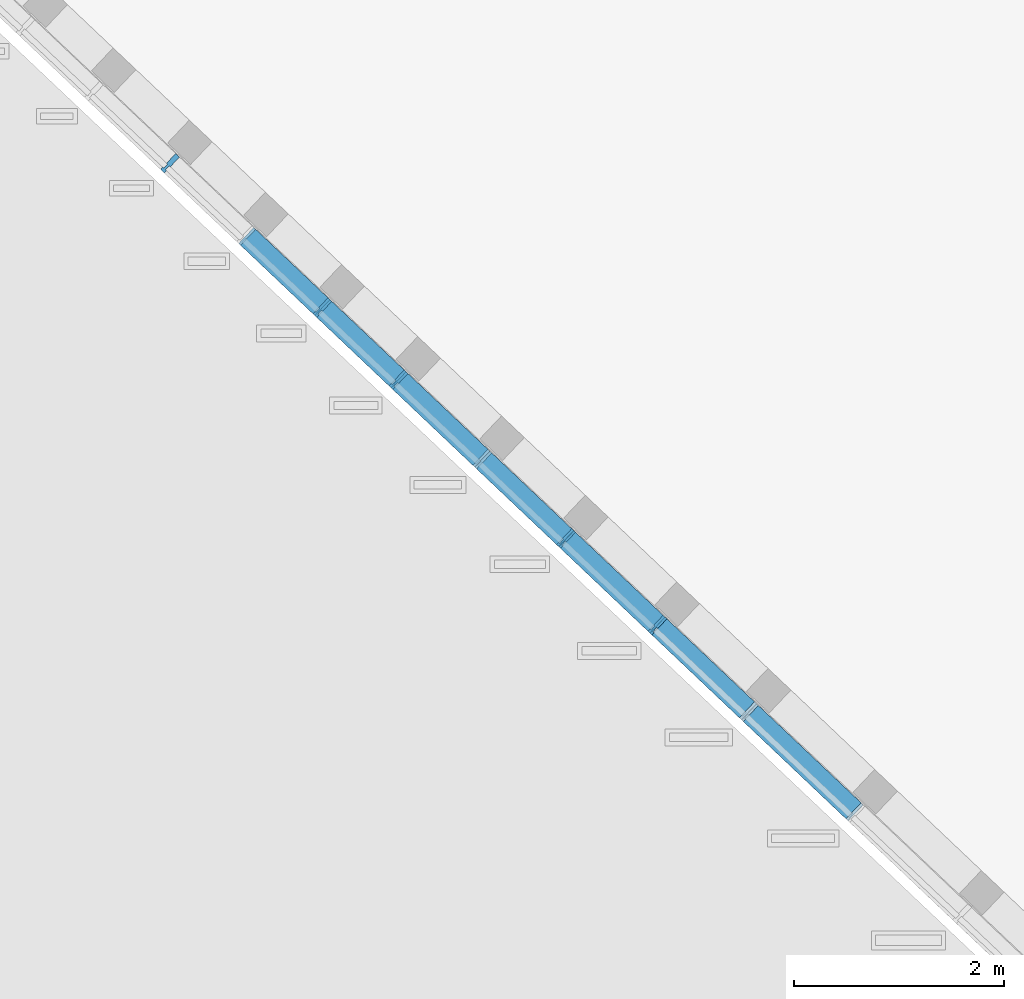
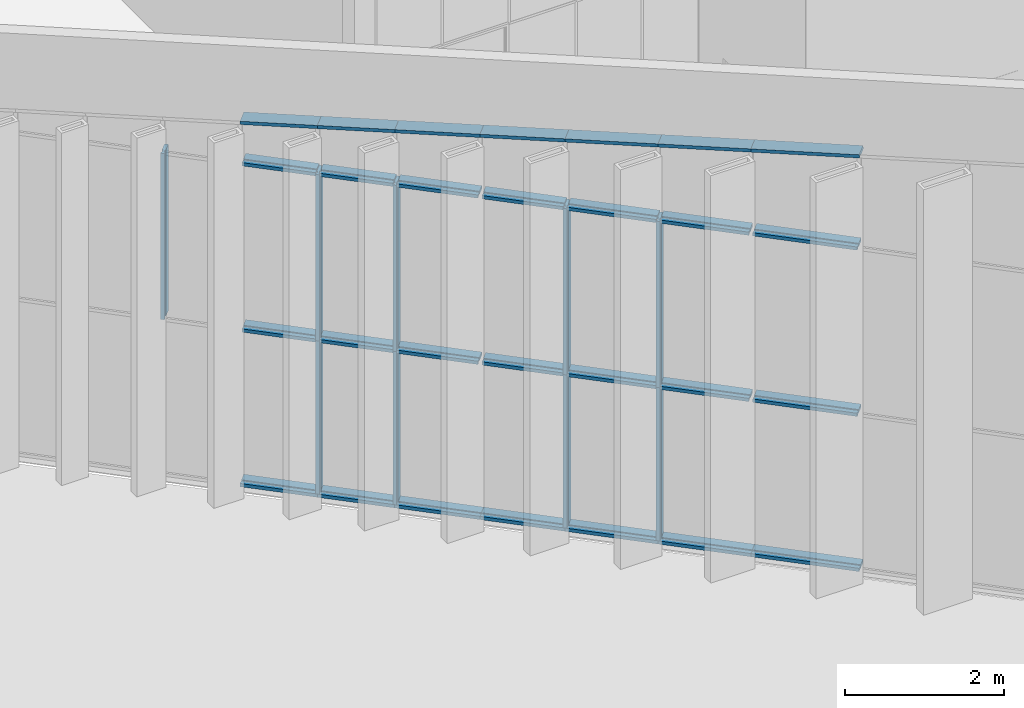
# One storey, part 11 of 246: 37 members, 1 element without a shape of its own.
"""IFC2X3 building model written with IfcOpenShell, lengths in millimetres."""

from ifc_helpers import new_model, entity, si_unit, converted_unit, derived_unit, money_unit, direction, frame, origin_with_axes, place, context, subcontext, project, spatial, faceted_brep, source, transform, mapped, material, type_object, element, aggregate, save


model = new_model("IFC2X3")

# Units and contexts
model_context = context("Model", 3, precision=0.01, world=origin_with_axes(), true_north=direction((0.0, 1.0)))
body_context = subcontext(model_context, "Body", "Model", "MODEL_VIEW")
ifc_project = project(units=[si_unit("LENGTHUNIT", "METRE", prefix="MILLI"), si_unit("AREAUNIT", "SQUARE_METRE"), si_unit("VOLUMEUNIT", "CUBIC_METRE"), converted_unit("PLANEANGLEUNIT", "DEGREE", entity("IfcPlaneAngleMeasure", 0.0174532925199), si_unit("PLANEANGLEUNIT", "RADIAN"), dimensions=[0, 0, 0, 0, 0, 0, 0]), si_unit("SOLIDANGLEUNIT", "STERADIAN"), money_unit("EUR"), converted_unit("TIMEUNIT", "Year", entity("IfcTimeMeasure", 31556926.0), si_unit("TIMEUNIT", "SECOND"), dimensions=[0, 0, 1, 0, 0, 0, 0]), si_unit("MASSUNIT", "GRAM", prefix="KILO"), si_unit("THERMODYNAMICTEMPERATUREUNIT", "DEGREE_CELSIUS"), si_unit("LUMINOUSINTENSITYUNIT", "LUMEN"), si_unit("ENERGYUNIT", "JOULE", prefix="MEGA"), derived_unit("THERMALCONDUCTANCEUNIT", [(si_unit("POWERUNIT", "WATT"), 1), (si_unit("LENGTHUNIT", "METRE"), -1), (si_unit("THERMODYNAMICTEMPERATUREUNIT", "KELVIN"), -1)]), derived_unit("SPECIFICHEATCAPACITYUNIT", [(si_unit("ENERGYUNIT", "JOULE"), 1), (si_unit("MASSUNIT", "GRAM", prefix="KILO"), -1), (si_unit("THERMODYNAMICTEMPERATUREUNIT", "KELVIN"), -1)]), derived_unit("MASSDENSITYUNIT", [(si_unit("MASSUNIT", "GRAM", prefix="KILO"), 1), (si_unit("VOLUMEUNIT", "CUBIC_METRE"), -1)])], contexts=[model_context])

# Site, building, storey
site_placement = place(None, origin_with_axes())
site = spatial("IfcSite", under=ifc_project, at=site_placement, Name="L.Koidula tn 11b", CompositionType="ELEMENT")
building_placement = place(site_placement, origin_with_axes())
building = spatial("IfcBuilding", under=site, at=building_placement, Name="Rakvere Riigigümnaasium", CompositionType="ELEMENT")
storey_placement = place(building_placement, origin_with_axes())
storey = spatial("IfcBuildingStorey", under=building, at=storey_placement, Name="1.korrus 0,00", CompositionType="ELEMENT", Elevation=0.0)

# Curtain wall, members
curtain_wall_type = type_object("IfcCurtainWallType", Name="Curtain Wall Type", PredefinedType="NOTDEFINED")
curtain_wall_placement = place(storey_placement, frame((33997.0353268, 45217.6604975, 0.0), z_axis=(0.0, 0.0, 1.0), x_axis=(1.0, 0.0, 0.0)))
curtain_wall = element("IfcCurtainWall", 1, at=curtain_wall_placement, inside=storey, type_object=curtain_wall_type, Name="KLF-02")
ifc_material = material(Name="Alumiiniumprofiil (RAL 7021)")
member_type_1 = type_object("IfcMemberType", Name="Mullion Frame 50 x 210", PredefinedType="MULLION")
shared_shape_1 = source(origin_with_axes(), body_context, "Body", "Brep", [
    faceted_brep([(12.0, -26.0, 2550.0), (12.0, 26.0, 2550.0), (25.0, 26.0, 2550.0), (25.0, 56.0, 2550.0), (-25.0, 56.0, 2550.0), (-25.0, 26.0, 2550.0), (-12.0, 26.0, 2550.0), (-12.0, -26.0, 2550.0), (-25.0, -26.0, 2550.0), (-25.0, -154.0, 2550.0), (25.0, -154.0, 2550.0), (25.0, -26.0, 2550.0), (12.0, -26.0, 0.0), (12.0, 26.0, 0.0), (25.0, 26.0, 0.0), (25.0, 56.0, 0.0), (-25.0, 56.0, 0.0), (-25.0, 26.0, 0.0), (-12.0, 26.0, 0.0), (-12.0, -26.0, 0.0), (-25.0, -26.0, 0.0), (-25.0, -154.0, 0.0), (25.0, -154.0, 0.0), (25.0, -26.0, 0.0)], [[[0, 1, 2, 3, 4, 5, 6, 7, 8, 9, 10, 11]], [[0, 12, 13, 1]], [[1, 13, 14, 2]], [[14, 15, 3, 2]], [[3, 15, 16, 4]], [[17, 5, 4, 16]], [[5, 17, 18, 6]], [[7, 6, 18, 19]], [[8, 7, 19, 20]], [[8, 20, 21, 9]], [[9, 21, 22, 10]], [[11, 10, 22, 23]], [[11, 23, 12, 0]], [[13, 12, 23, 22, 21, 20, 19, 18, 17, 16, 15, 14]]]),
])
member_1_placement = place(curtain_wall_placement, frame((-13430.2642398, 12723.1286423, 2400.00031279), z_axis=(0.0, 0.0, 1.0), x_axis=(0.725960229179, -0.687736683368, 0.0)))
member_1 = element("IfcMember", 2, at=member_1_placement, type_object=member_type_1, material=ifc_material, Name="KLF-46-Profiilid", ObjectType="MULLION", context=body_context, shape_type="MappedRepresentation", body=[
    mapped(shared_shape_1, transform((0.0, 0.0, 0.0), x_axis=(-1.0, 0.0, 0.0), y_axis=(0.0, -1.0, 0.0), z_axis=(0.0, 0.0, 1.0))),
])
member_2_placement = place(curtain_wall_placement, frame((-8784.11877306, 8321.61386876, 2400.00031279), z_axis=(0.0, 0.0, 1.0), x_axis=(0.725960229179, -0.687736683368, 0.0)))
member_2 = element("IfcMember", 3, at=member_2_placement, type_object=member_type_1, material=ifc_material, Name="KLF-28-Profiilid", ObjectType="MULLION", context=body_context, shape_type="MappedRepresentation", body=[
    mapped(shared_shape_1, transform((0.0, 0.0, 0.0), x_axis=(-1.0, 0.0, 0.0), y_axis=(0.0, -1.0, 0.0), z_axis=(0.0, 0.0, 1.0))),
])
member_3_placement = place(curtain_wall_placement, frame((-9655.27104808, 9146.8978888, 2400.00031279), z_axis=(0.0, 0.0, 1.0), x_axis=(0.725960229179, -0.687736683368, 0.0)))
member_3 = element("IfcMember", 4, at=member_3_placement, type_object=member_type_1, material=ifc_material, Name="KLF-31-Profiilid", ObjectType="MULLION", context=body_context, shape_type="MappedRepresentation", body=[
    mapped(shared_shape_1, transform((0.0, 0.0, 0.0), x_axis=(-1.0, 0.0, 0.0), y_axis=(0.0, -1.0, 0.0), z_axis=(0.0, 0.0, 1.0))),
])
member_4_placement = place(curtain_wall_placement, frame((-11252.3835523, 10659.9185922, 2400.00031279), z_axis=(0.0, 0.0, 1.0), x_axis=(0.725960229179, -0.687736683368, 0.0)))
member_4 = element("IfcMember", 5, at=member_4_placement, type_object=member_type_1, material=ifc_material, Name="KLF-37-Profiilid", ObjectType="MULLION", context=body_context, shape_type="MappedRepresentation", body=[
    mapped(shared_shape_1, transform((0.0, 0.0, 0.0), x_axis=(-1.0, 0.0, 0.0), y_axis=(0.0, -1.0, 0.0), z_axis=(0.0, 0.0, 1.0))),
])
member_5_placement = place(curtain_wall_placement, frame((-11978.3437815, 11347.6552756, 2400.00031279), z_axis=(0.0, 0.0, 1.0), x_axis=(0.725960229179, -0.687736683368, 0.0)))
member_5 = element("IfcMember", 6, at=member_5_placement, type_object=member_type_1, material=ifc_material, Name="KLF-40-Profiilid", ObjectType="MULLION", context=body_context, shape_type="MappedRepresentation", body=[
    mapped(shared_shape_1, transform((0.0, 0.0, 0.0), x_axis=(-1.0, 0.0, 0.0), y_axis=(0.0, -1.0, 0.0), z_axis=(0.0, 0.0, 1.0))),
])
shared_shape_2 = source(origin_with_axes(), body_context, "Body", "Brep", [
    faceted_brep([(12.0, -26.0, 2400.00031279), (12.0, 26.0, 2400.00031279), (25.0, 26.0, 2400.00031279), (25.0, 56.0, 2400.00031279), (-25.0, 56.0, 2400.00031279), (-25.0, 26.0, 2400.00031279), (-12.0, 26.0, 2400.00031279), (-12.0, -26.0, 2400.00031279), (-25.0, -26.0, 2400.00031279), (-25.0, -154.0, 2400.00031279), (25.0, -154.0, 2400.00031279), (25.0, -26.0, 2400.00031279), (12.0, -26.0, 50.0), (12.0, 26.0, 50.0), (25.0, 26.0, 50.0), (25.0, 56.0, 50.0), (-25.0, 56.0, 50.0), (-25.0, 26.0, 50.0), (-12.0, 26.0, 50.0), (-12.0, -26.0, 50.0), (-25.0, -26.0, 50.0), (-25.0, -154.0, 50.0), (25.0, -154.0, 50.0), (25.0, -26.0, 50.0)], [[[0, 1, 2, 3, 4, 5, 6, 7, 8, 9, 10, 11]], [[0, 12, 13, 1]], [[1, 13, 14, 2]], [[14, 15, 3, 2]], [[4, 3, 15, 16]], [[17, 5, 4, 16]], [[5, 17, 18, 6]], [[7, 6, 18, 19]], [[8, 7, 19, 20]], [[8, 20, 21, 9]], [[10, 9, 21, 22]], [[11, 10, 22, 23]], [[11, 23, 12, 0]], [[13, 12, 23, 22, 21, 20, 19, 18, 17, 16, 15, 14]]]),
])
member_6_placement = place(curtain_wall_placement, frame((-8784.11877306, 8321.61386876, 0.0), z_axis=(0.0, 0.0, 1.0), x_axis=(0.725960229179, -0.687736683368, 0.0)))
member_6 = element("IfcMember", 7, at=member_6_placement, type_object=member_type_1, material=ifc_material, Name="KLF-27-Profiilid", ObjectType="MULLION", context=body_context, shape_type="MappedRepresentation", body=[
    mapped(shared_shape_2, transform((0.0, 0.0, 0.0), x_axis=(-1.0, 0.0, 0.0), y_axis=(0.0, -1.0, 0.0), z_axis=(0.0, 0.0, 1.0))),
])
member_7_placement = place(curtain_wall_placement, frame((-9655.27104808, 9146.8978888, 0.0), z_axis=(0.0, 0.0, 1.0), x_axis=(0.725960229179, -0.687736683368, 0.0)))
member_7 = element("IfcMember", 8, at=member_7_placement, type_object=member_type_1, material=ifc_material, Name="KLF-30-Profiilid", ObjectType="MULLION", context=body_context, shape_type="MappedRepresentation", body=[
    mapped(shared_shape_2, transform((0.0, 0.0, 0.0), x_axis=(-1.0, 0.0, 0.0), y_axis=(0.0, -1.0, 0.0), z_axis=(0.0, 0.0, 1.0))),
])
member_8_placement = place(curtain_wall_placement, frame((-11252.3835523, 10659.9185922, 0.0), z_axis=(0.0, 0.0, 1.0), x_axis=(0.725960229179, -0.687736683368, 0.0)))
member_8 = element("IfcMember", 9, at=member_8_placement, type_object=member_type_1, material=ifc_material, Name="KLF-36-Profiilid", ObjectType="MULLION", context=body_context, shape_type="MappedRepresentation", body=[
    mapped(shared_shape_2, transform((0.0, 0.0, 0.0), x_axis=(-1.0, 0.0, 0.0), y_axis=(0.0, -1.0, 0.0), z_axis=(0.0, 0.0, 1.0))),
])
member_9_placement = place(curtain_wall_placement, frame((-11978.3437815, 11347.6552756, 0.0), z_axis=(0.0, 0.0, 1.0), x_axis=(0.725960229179, -0.687736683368, 0.0)))
member_9 = element("IfcMember", 10, at=member_9_placement, type_object=member_type_1, material=ifc_material, Name="KLF-39-Profiilid", ObjectType="MULLION", context=body_context, shape_type="MappedRepresentation", body=[
    mapped(shared_shape_2, transform((0.0, 0.0, 0.0), x_axis=(-1.0, 0.0, 0.0), y_axis=(0.0, -1.0, 0.0), z_axis=(0.0, 0.0, 1.0))),
])
member_type_2 = type_object("IfcMemberType", Name="Transom Frame 50 x 210", PredefinedType="MULLION")
shared_shape_3 = source(origin_with_axes(), body_context, "Body", "Brep", [
    faceted_brep([(12.0, -26.0, 975.0), (12.0, 26.0, 975.0), (25.0, 26.0, 975.0), (25.0, 56.0, 975.0), (-25.0, 56.0, 975.0), (-25.0, 26.0, 975.0), (-12.0, 26.0, 975.0), (-12.0, -26.0, 975.0), (-25.0, -26.0, 975.0), (-25.0, -154.0, 975.0), (25.0, -154.0, 975.0), (25.0, -26.0, 975.0), (12.0, -26.0, 25.0), (12.0, 26.0, 25.0), (25.0, 26.0, 25.0), (25.0, 56.0, 25.0), (-25.0, 56.0, 25.0), (-25.0, 26.0, 25.0), (-12.0, 26.0, 25.0), (-12.0, -26.0, 25.0), (-25.0, -26.0, 25.0), (-25.0, -154.0, 25.0), (25.0, -154.0, 25.0), (25.0, -26.0, 25.0)], [[[0, 1, 2, 3, 4, 5, 6, 7, 8, 9, 10, 11]], [[0, 12, 13, 1]], [[1, 13, 14, 2]], [[14, 15, 3, 2]], [[4, 3, 15, 16]], [[17, 5, 4, 16]], [[5, 17, 18, 6]], [[7, 6, 18, 19]], [[8, 7, 19, 20]], [[8, 20, 21, 9]], [[10, 9, 21, 22]], [[11, 10, 22, 23]], [[11, 23, 12, 0]], [[13, 12, 23, 22, 21, 20, 19, 18, 17, 16, 15, 14]]]),
])
member_10_placement = place(curtain_wall_placement, frame((-11978.3437815, 11347.6552756, 4950.00031279), z_axis=(-0.725960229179, 0.687736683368, 0.0), x_axis=(0.0, 0.0, 1.0)))
member_10 = element("IfcMember", 11, at=member_10_placement, type_object=member_type_2, material=ifc_material, Name="KLF-51-Profiilid", ObjectType="MULLION", context=body_context, shape_type="MappedRepresentation", body=[
    mapped(shared_shape_3, transform((0.0, 0.0, 0.0), x_axis=(-1.0, 0.0, 0.0), y_axis=(0.0, -1.0, 0.0), z_axis=(0.0, 0.0, 1.0))),
])
member_11_placement = place(curtain_wall_placement, frame((-11252.3835523, 10659.9185922, 4950.00031279), z_axis=(-0.725960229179, 0.687736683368, 0.0), x_axis=(0.0, 0.0, 1.0)))
member_11 = element("IfcMember", 12, at=member_11_placement, type_object=member_type_2, material=ifc_material, Name="KLF-50-Profiilid", ObjectType="MULLION", context=body_context, shape_type="MappedRepresentation", body=[
    mapped(shared_shape_3, transform((0.0, 0.0, 0.0), x_axis=(-1.0, 0.0, 0.0), y_axis=(0.0, -1.0, 0.0), z_axis=(0.0, 0.0, 1.0))),
])
member_12_placement = place(curtain_wall_placement, frame((-11978.3437815, 11347.6552756, 2400.00031279), z_axis=(-0.725960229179, 0.687736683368, 0.0), x_axis=(0.0, 0.0, 1.0)))
member_12 = element("IfcMember", 13, at=member_12_placement, type_object=member_type_2, material=ifc_material, Name="KLF-33-Profiilid", ObjectType="MULLION", context=body_context, shape_type="MappedRepresentation", body=[
    mapped(shared_shape_3, transform((0.0, 0.0, 0.0), x_axis=(-1.0, 0.0, 0.0), y_axis=(0.0, -1.0, 0.0), z_axis=(0.0, 0.0, 1.0))),
])
member_13_placement = place(curtain_wall_placement, frame((-11252.3835523, 10659.9185922, 2400.00031279), z_axis=(-0.725960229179, 0.687736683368, 0.0), x_axis=(0.0, 0.0, 1.0)))
member_13 = element("IfcMember", 14, at=member_13_placement, type_object=member_type_2, material=ifc_material, Name="KLF-32-Profiilid", ObjectType="MULLION", context=body_context, shape_type="MappedRepresentation", body=[
    mapped(shared_shape_3, transform((0.0, 0.0, 0.0), x_axis=(-1.0, 0.0, 0.0), y_axis=(0.0, -1.0, 0.0), z_axis=(0.0, 0.0, 1.0))),
])
shared_shape_4 = source(origin_with_axes(), body_context, "Body", "Brep", [
    faceted_brep([(12.0, -26.0, 1075.0), (12.0, 26.0, 1075.0), (25.0, 26.0, 1075.0), (25.0, 56.0, 1075.0), (-25.0, 56.0, 1075.0), (-25.0, 26.0, 1075.0), (-12.0, 26.0, 1075.0), (-12.0, -26.0, 1075.0), (-25.0, -26.0, 1075.0), (-25.0, -154.0, 1075.0), (25.0, -154.0, 1075.0), (25.0, -26.0, 1075.0), (12.0, -26.0, 25.0), (12.0, 26.0, 25.0), (25.0, 26.0, 25.0), (25.0, 56.0, 25.0), (-25.0, 56.0, 25.0), (-25.0, 26.0, 25.0), (-12.0, 26.0, 25.0), (-12.0, -26.0, 25.0), (-25.0, -26.0, 25.0), (-25.0, -154.0, 25.0), (25.0, -154.0, 25.0), (25.0, -26.0, 25.0)], [[[0, 1, 2, 3, 4, 5, 6, 7, 8, 9, 10, 11]], [[0, 12, 13, 1]], [[1, 13, 14, 2]], [[14, 15, 3, 2]], [[4, 3, 15, 16]], [[17, 5, 4, 16]], [[5, 17, 18, 6]], [[7, 6, 18, 19]], [[8, 7, 19, 20]], [[8, 20, 21, 9]], [[10, 9, 21, 22]], [[11, 10, 22, 23]], [[11, 23, 12, 0]], [[13, 12, 23, 22, 21, 20, 19, 18, 17, 16, 15, 14]]]),
])
member_14_placement = place(curtain_wall_placement, frame((-10453.8273002, 9903.40824051, 4950.00031279), z_axis=(-0.725960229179, 0.687736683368, 0.0), x_axis=(0.0, 0.0, 1.0)))
member_14 = element("IfcMember", 15, at=member_14_placement, type_object=member_type_2, material=ifc_material, Name="KLF-49-Profiilid", ObjectType="MULLION", context=body_context, shape_type="MappedRepresentation", body=[
    mapped(shared_shape_4, transform((0.0, 0.0, 0.0), x_axis=(-1.0, 0.0, 0.0), y_axis=(0.0, -1.0, 0.0), z_axis=(0.0, 0.0, 1.0))),
])
member_15_placement = place(curtain_wall_placement, frame((-9655.27104808, 9146.8978888, 4950.00031279), z_axis=(-0.725960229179, 0.687736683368, 0.0), x_axis=(0.0, 0.0, 1.0)))
member_15 = element("IfcMember", 16, at=member_15_placement, type_object=member_type_2, material=ifc_material, Name="KLF-48-Profiilid", ObjectType="MULLION", context=body_context, shape_type="MappedRepresentation", body=[
    mapped(shared_shape_4, transform((0.0, 0.0, 0.0), x_axis=(-1.0, 0.0, 0.0), y_axis=(0.0, -1.0, 0.0), z_axis=(0.0, 0.0, 1.0))),
])
member_16_placement = place(curtain_wall_placement, frame((-10453.8273002, 9903.40824051, 2400.00031279), z_axis=(-0.725960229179, 0.687736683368, 0.0), x_axis=(0.0, 0.0, 1.0)))
member_16 = element("IfcMember", 17, at=member_16_placement, type_object=member_type_2, material=ifc_material, Name="KLF-31-Profiilid", ObjectType="MULLION", context=body_context, shape_type="MappedRepresentation", body=[
    mapped(shared_shape_4, transform((0.0, 0.0, 0.0), x_axis=(-1.0, 0.0, 0.0), y_axis=(0.0, -1.0, 0.0), z_axis=(0.0, 0.0, 1.0))),
])
member_17_placement = place(curtain_wall_placement, frame((-9655.27104808, 9146.8978888, 2400.00031279), z_axis=(-0.725960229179, 0.687736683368, 0.0), x_axis=(0.0, 0.0, 1.0)))
member_17 = element("IfcMember", 18, at=member_17_placement, type_object=member_type_2, material=ifc_material, Name="KLF-30-Profiilid", ObjectType="MULLION", context=body_context, shape_type="MappedRepresentation", body=[
    mapped(shared_shape_4, transform((0.0, 0.0, 0.0), x_axis=(-1.0, 0.0, 0.0), y_axis=(0.0, -1.0, 0.0), z_axis=(0.0, 0.0, 1.0))),
])
shared_shape_5 = source(origin_with_axes(), body_context, "Body", "Brep", [
    faceted_brep([(12.0, -26.0, 1175.0), (12.0, 26.0, 1175.0), (25.0, 26.0, 1175.0), (25.0, 56.0, 1175.0), (-25.0, 56.0, 1175.0), (-25.0, 26.0, 1175.0), (-12.0, 26.0, 1175.0), (-12.0, -26.0, 1175.0), (-25.0, -26.0, 1175.0), (-25.0, -154.0, 1175.0), (25.0, -154.0, 1175.0), (25.0, -26.0, 1175.0), (12.0, -26.0, 25.0), (12.0, 26.0, 25.0), (25.0, 26.0, 25.0), (25.0, 56.0, 25.0), (-25.0, 56.0, 25.0), (-25.0, 26.0, 25.0), (-12.0, 26.0, 25.0), (-12.0, -26.0, 25.0), (-25.0, -26.0, 25.0), (-25.0, -154.0, 25.0), (25.0, -154.0, 25.0), (25.0, -26.0, 25.0)], [[[0, 1, 2, 3, 4, 5, 6, 7, 8, 9, 10, 11]], [[0, 12, 13, 1]], [[1, 13, 14, 2]], [[14, 15, 3, 2]], [[4, 3, 15, 16]], [[17, 5, 4, 16]], [[5, 17, 18, 6]], [[7, 6, 18, 19]], [[8, 7, 19, 20]], [[8, 20, 21, 9]], [[10, 9, 21, 22]], [[11, 10, 22, 23]], [[11, 23, 12, 0]], [[13, 12, 23, 22, 21, 20, 19, 18, 17, 16, 15, 14]]]),
])
member_18_placement = place(curtain_wall_placement, frame((-8784.11877306, 8321.61386876, 4950.00031279), z_axis=(-0.725960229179, 0.687736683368, 0.0), x_axis=(0.0, 0.0, 1.0)))
member_18 = element("IfcMember", 19, at=member_18_placement, type_object=member_type_2, material=ifc_material, Name="KLF-47-Profiilid", ObjectType="MULLION", context=body_context, shape_type="MappedRepresentation", body=[
    mapped(shared_shape_5, transform((0.0, 0.0, 0.0), x_axis=(-1.0, 0.0, 0.0), y_axis=(0.0, -1.0, 0.0), z_axis=(0.0, 0.0, 1.0))),
])
member_19_placement = place(curtain_wall_placement, frame((-7912.96649805, 7496.32984872, 4950.00031279), z_axis=(-0.725960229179, 0.687736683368, 0.0), x_axis=(0.0, 0.0, 1.0)))
member_19 = element("IfcMember", 20, at=member_19_placement, type_object=member_type_2, material=ifc_material, Name="KLF-46-Profiilid", ObjectType="MULLION", context=body_context, shape_type="MappedRepresentation", body=[
    mapped(shared_shape_5, transform((0.0, 0.0, 0.0), x_axis=(-1.0, 0.0, 0.0), y_axis=(0.0, -1.0, 0.0), z_axis=(0.0, 0.0, 1.0))),
])
member_20_placement = place(curtain_wall_placement, frame((-8784.11877306, 8321.61386876, 2400.00031279), z_axis=(-0.725960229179, 0.687736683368, 0.0), x_axis=(0.0, 0.0, 1.0)))
member_20 = element("IfcMember", 21, at=member_20_placement, type_object=member_type_2, material=ifc_material, Name="KLF-29-Profiilid", ObjectType="MULLION", context=body_context, shape_type="MappedRepresentation", body=[
    mapped(shared_shape_5, transform((0.0, 0.0, 0.0), x_axis=(-1.0, 0.0, 0.0), y_axis=(0.0, -1.0, 0.0), z_axis=(0.0, 0.0, 1.0))),
])
member_21_placement = place(curtain_wall_placement, frame((-7912.96649805, 7496.32984872, 2400.00031279), z_axis=(-0.725960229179, 0.687736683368, 0.0), x_axis=(0.0, 0.0, 1.0)))
member_21 = element("IfcMember", 22, at=member_21_placement, type_object=member_type_2, material=ifc_material, Name="KLF-28-Profiilid", ObjectType="MULLION", context=body_context, shape_type="MappedRepresentation", body=[
    mapped(shared_shape_5, transform((0.0, 0.0, 0.0), x_axis=(-1.0, 0.0, 0.0), y_axis=(0.0, -1.0, 0.0), z_axis=(0.0, 0.0, 1.0))),
])
shared_shape_6 = source(origin_with_axes(), body_context, "Body", "Brep", [
    faceted_brep([(12.0, -26.0, 1375.0), (12.0, 26.0, 1375.0), (25.0, 26.0, 1375.0), (25.0, 56.0, 1375.0), (-25.0, 56.0, 1375.0), (-25.0, 26.0, 1375.0), (-12.0, 26.0, 1375.0), (-12.0, -26.0, 1375.0), (-25.0, -26.0, 1375.0), (-25.0, -154.0, 1375.0), (25.0, -154.0, 1375.0), (25.0, -26.0, 1375.0), (12.0, -26.0, 25.0), (12.0, 26.0, 25.0), (25.0, 26.0, 25.0), (25.0, 56.0, 25.0), (-25.0, 56.0, 25.0), (-25.0, 26.0, 25.0), (-12.0, 26.0, 25.0), (-12.0, -26.0, 25.0), (-25.0, -26.0, 25.0), (-25.0, -154.0, 25.0), (25.0, -154.0, 25.0), (25.0, -26.0, 25.0)], [[[0, 1, 2, 3, 4, 5, 6, 7, 8, 9, 10, 11]], [[0, 12, 13, 1]], [[1, 13, 14, 2]], [[14, 15, 3, 2]], [[4, 3, 15, 16]], [[17, 5, 4, 16]], [[5, 17, 18, 6]], [[7, 6, 18, 19]], [[8, 7, 19, 20]], [[8, 20, 21, 9]], [[10, 9, 21, 22]], [[11, 10, 22, 23]], [[11, 23, 12, 0]], [[13, 12, 23, 22, 21, 20, 19, 18, 17, 16, 15, 14]]]),
])
member_22_placement = place(curtain_wall_placement, frame((-6896.6221772, 6533.498492, 4950.00031279), z_axis=(-0.725960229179, 0.687736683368, 0.0), x_axis=(0.0, 0.0, 1.0)))
member_22 = element("IfcMember", 23, at=member_22_placement, type_object=member_type_2, material=ifc_material, Name="KLF-45-Profiilid", ObjectType="MULLION", context=body_context, shape_type="MappedRepresentation", body=[
    mapped(shared_shape_6, transform((0.0, 0.0, 0.0), x_axis=(-1.0, 0.0, 0.0), y_axis=(0.0, -1.0, 0.0), z_axis=(0.0, 0.0, 1.0))),
])
member_23_placement = place(curtain_wall_placement, frame((-6896.6221772, 6533.498492, 2400.00031279), z_axis=(-0.725960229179, 0.687736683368, 0.0), x_axis=(0.0, 0.0, 1.0)))
member_23 = element("IfcMember", 24, at=member_23_placement, type_object=member_type_2, material=ifc_material, Name="KLF-27-Profiilid", ObjectType="MULLION", context=body_context, shape_type="MappedRepresentation", body=[
    mapped(shared_shape_6, transform((0.0, 0.0, 0.0), x_axis=(-1.0, 0.0, 0.0), y_axis=(0.0, -1.0, 0.0), z_axis=(0.0, 0.0, 1.0))),
])
member_type_3 = type_object("IfcMemberType", Name="Boundary Frame 50 x 210", PredefinedType="MULLION")
shared_shape_7 = source(origin_with_axes(), body_context, "Body", "Brep", [
    faceted_brep([(-37.0, -26.0, 1000.0), (-50.0, -26.0, 1000.0), (-50.0, -154.0, 1000.0), (0.0, -154.0, 1000.0), (0.0, 56.0, 1000.0), (-50.0, 56.0, 1000.0), (-50.0, 26.0, 1000.0), (-37.0, 26.0, 1000.0), (-37.0, -26.0, 0.0), (-50.0, -26.0, 0.0), (-50.0, -154.0, 0.0), (0.0, -154.0, 0.0), (0.0, 56.0, 0.0), (-50.0, 56.0, 0.0), (-50.0, 26.0, 0.0), (-37.0, 26.0, 0.0)], [[[0, 1, 2, 3, 4, 5, 6, 7]], [[0, 8, 9, 1]], [[9, 10, 2, 1]], [[10, 11, 3, 2]], [[11, 12, 4, 3]], [[12, 13, 5, 4]], [[6, 5, 13, 14]], [[14, 15, 7, 6]], [[7, 15, 8, 0]], [[8, 15, 14, 13, 12, 11, 10, 9]]]),
])
member_24_placement = place(curtain_wall_placement, frame((-11978.3437815, 11347.6552756, 0.0), z_axis=(-0.725960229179, 0.687736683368, 0.0), x_axis=(0.0, 0.0, 1.0)))
member_24 = element("IfcMember", 25, at=member_24_placement, type_object=member_type_3, material=ifc_material, Name="KLF-02-Profiilid", ObjectType="MULLION", context=body_context, shape_type="MappedRepresentation", body=[
    mapped(shared_shape_7, transform((0.0, 0.0, 0.0), x_axis=(-1.0, 0.0, 0.0), y_axis=(0.0, -1.0, 0.0), z_axis=(0.0, 0.0, 1.0))),
])
member_25_placement = place(curtain_wall_placement, frame((-11252.3835523, 10659.9185922, 0.0), z_axis=(-0.725960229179, 0.687736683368, 0.0), x_axis=(0.0, 0.0, 1.0)))
member_25 = element("IfcMember", 26, at=member_25_placement, type_object=member_type_3, material=ifc_material, Name="KLF-01-Profiilid", ObjectType="MULLION", context=body_context, shape_type="MappedRepresentation", body=[
    mapped(shared_shape_7, transform((0.0, 0.0, 0.0), x_axis=(-1.0, 0.0, 0.0), y_axis=(0.0, -1.0, 0.0), z_axis=(0.0, 0.0, 1.0))),
])
shared_shape_8 = source(origin_with_axes(), body_context, "Body", "Brep", [
    faceted_brep([(-37.0, -26.0, 1004.84901886), (-50.0, -26.0, 1004.84901886), (-50.0, -154.0, 1004.84901886), (0.0, -154.0, 1004.84901886), (0.0, 56.0, 1004.84901886), (-50.0, 56.0, 1004.84901886), (-50.0, 26.0, 1004.84901886), (-37.0, 26.0, 1004.84901886), (-37.0, -26.0, 0.0), (-50.0, -26.0, 0.0), (-50.0, -154.0, 0.0), (0.0, -154.0, 0.0), (0.0, 56.0, 0.0), (-50.0, 56.0, 0.0), (-50.0, 26.0, 0.0), (-37.0, 26.0, 0.0)], [[[0, 1, 2, 3, 4, 5, 6, 7]], [[0, 8, 9, 1]], [[9, 10, 2, 1]], [[10, 11, 3, 2]], [[11, 12, 4, 3]], [[12, 13, 5, 4]], [[6, 5, 13, 14]], [[14, 15, 7, 6]], [[7, 15, 8, 0]], [[8, 15, 14, 13, 12, 11, 10, 9]]]),
])
member_26_placement = place(curtain_wall_placement, frame((-11978.3437815, 11347.6552756, 5703.90003139), z_axis=(0.722457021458, -0.68441792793, 0.0981221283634), x_axis=(0.0712327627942, -0.0674821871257, -0.995174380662)))
member_26 = element("IfcMember", 27, at=member_26_placement, type_object=member_type_3, material=ifc_material, Name="KLF-15-Profiilid", ObjectType="MULLION", context=body_context, shape_type="MappedRepresentation", body=[
    mapped(shared_shape_8, transform((0.0, 0.0, 0.0), x_axis=(-1.0, 0.0, 0.0), y_axis=(0.0, -1.0, 0.0), z_axis=(0.0, 0.0, 1.0))),
])
member_27_placement = place(curtain_wall_placement, frame((-12704.3040106, 12035.3919589, 5605.30210698), z_axis=(0.722457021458, -0.68441792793, 0.0981221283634), x_axis=(0.0712327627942, -0.0674821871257, -0.995174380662)))
member_27 = element("IfcMember", 28, at=member_27_placement, type_object=member_type_3, material=ifc_material, Name="KLF-14-Profiilid", ObjectType="MULLION", context=body_context, shape_type="MappedRepresentation", body=[
    mapped(shared_shape_8, transform((0.0, 0.0, 0.0), x_axis=(-1.0, 0.0, 0.0), y_axis=(0.0, -1.0, 0.0), z_axis=(0.0, 0.0, 1.0))),
])
shared_shape_9 = source(origin_with_axes(), body_context, "Body", "Brep", [
    faceted_brep([(-37.0, -26.0, 1100.0), (-50.0, -26.0, 1100.0), (-50.0, -154.0, 1100.0), (0.0, -154.0, 1100.0), (0.0, 56.0, 1100.0), (-50.0, 56.0, 1100.0), (-50.0, 26.0, 1100.0), (-37.0, 26.0, 1100.0), (-37.0, -26.0, 0.0), (-50.0, -26.0, 0.0), (-50.0, -154.0, 0.0), (0.0, -154.0, 0.0), (0.0, 56.0, 0.0), (-50.0, 56.0, 0.0), (-50.0, 26.0, 0.0), (-37.0, 26.0, 0.0)], [[[0, 1, 2, 3, 4, 5, 6, 7]], [[0, 8, 9, 1]], [[9, 10, 2, 1]], [[10, 11, 3, 2]], [[11, 12, 4, 3]], [[12, 13, 5, 4]], [[6, 5, 13, 14]], [[14, 15, 7, 6]], [[7, 15, 8, 0]], [[8, 15, 14, 13, 12, 11, 10, 9]]]),
])
member_28_placement = place(curtain_wall_placement, frame((-10453.8273002, 9903.40824051, 0.0), z_axis=(-0.725960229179, 0.687736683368, 0.0), x_axis=(0.0, 0.0, 1.0)))
member_28 = element("IfcMember", 29, at=member_28_placement, type_object=member_type_3, material=ifc_material, Name="KLF-00-Profiilid", ObjectType="MULLION", context=body_context, shape_type="MappedRepresentation", body=[
    mapped(shared_shape_9, transform((0.0, 0.0, 0.0), x_axis=(-1.0, 0.0, 0.0), y_axis=(0.0, -1.0, 0.0), z_axis=(0.0, 0.0, 1.0))),
])
member_29_placement = place(curtain_wall_placement, frame((-9655.27104808, 9146.8978888, 0.0), z_axis=(-0.725960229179, 0.687736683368, 0.0), x_axis=(0.0, 0.0, 1.0)))
member_29 = element("IfcMember", 30, at=member_29_placement, type_object=member_type_3, material=ifc_material, Name="KLF-99-Profiilid", ObjectType="MULLION", context=body_context, shape_type="MappedRepresentation", body=[
    mapped(shared_shape_9, transform((0.0, 0.0, 0.0), x_axis=(-1.0, 0.0, 0.0), y_axis=(0.0, -1.0, 0.0), z_axis=(0.0, 0.0, 1.0))),
])
shared_shape_10 = source(origin_with_axes(), body_context, "Body", "Brep", [
    faceted_brep([(-37.0, -26.0, 1200.0), (-50.0, -26.0, 1200.0), (-50.0, -154.0, 1200.0), (0.0, -154.0, 1200.0), (0.0, 56.0, 1200.0), (-50.0, 56.0, 1200.0), (-50.0, 26.0, 1200.0), (-37.0, 26.0, 1200.0), (-37.0, -26.0, 0.0), (-50.0, -26.0, 0.0), (-50.0, -154.0, 0.0), (0.0, -154.0, 0.0), (0.0, 56.0, 0.0), (-50.0, 56.0, 0.0), (-50.0, 26.0, 0.0), (-37.0, 26.0, 0.0)], [[[0, 1, 2, 3, 4, 5, 6, 7]], [[0, 8, 9, 1]], [[9, 10, 2, 1]], [[10, 11, 3, 2]], [[11, 12, 4, 3]], [[12, 13, 5, 4]], [[6, 5, 13, 14]], [[14, 15, 7, 6]], [[7, 15, 8, 0]], [[8, 15, 14, 13, 12, 11, 10, 9]]]),
])
member_30_placement = place(curtain_wall_placement, frame((-8784.11877306, 8321.61386876, 0.0), z_axis=(-0.725960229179, 0.687736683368, 0.0), x_axis=(0.0, 0.0, 1.0)))
member_30 = element("IfcMember", 31, at=member_30_placement, type_object=member_type_3, material=ifc_material, Name="KLF-98-Profiilid", ObjectType="MULLION", context=body_context, shape_type="MappedRepresentation", body=[
    mapped(shared_shape_10, transform((0.0, 0.0, 0.0), x_axis=(-1.0, 0.0, 0.0), y_axis=(0.0, -1.0, 0.0), z_axis=(0.0, 0.0, 1.0))),
])
member_31_placement = place(curtain_wall_placement, frame((-7912.96649805, 7496.32984872, 0.0), z_axis=(-0.725960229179, 0.687736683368, 0.0), x_axis=(0.0, 0.0, 1.0)))
member_31 = element("IfcMember", 32, at=member_31_placement, type_object=member_type_3, material=ifc_material, Name="KLF-97-Profiilid", ObjectType="MULLION", context=body_context, shape_type="MappedRepresentation", body=[
    mapped(shared_shape_10, transform((0.0, 0.0, 0.0), x_axis=(-1.0, 0.0, 0.0), y_axis=(0.0, -1.0, 0.0), z_axis=(0.0, 0.0, 1.0))),
])
shared_shape_11 = source(origin_with_axes(), body_context, "Body", "Brep", [
    faceted_brep([(-37.0, -26.0, 1400.0), (-50.0, -26.0, 1400.0), (-50.0, -154.0, 1400.0), (0.0, -154.0, 1400.0), (0.0, 56.0, 1400.0), (-50.0, 56.0, 1400.0), (-50.0, 26.0, 1400.0), (-37.0, 26.0, 1400.0), (-37.0, -26.0, 0.0), (-50.0, -26.0, 0.0), (-50.0, -154.0, 0.0), (0.0, -154.0, 0.0), (0.0, 56.0, 0.0), (-50.0, 56.0, 0.0), (-50.0, 26.0, 0.0), (-37.0, 26.0, 0.0)], [[[0, 1, 2, 3, 4, 5, 6, 7]], [[0, 8, 9, 1]], [[9, 10, 2, 1]], [[10, 11, 3, 2]], [[11, 12, 4, 3]], [[12, 13, 5, 4]], [[6, 5, 13, 14]], [[14, 15, 7, 6]], [[7, 15, 8, 0]], [[8, 15, 14, 13, 12, 11, 10, 9]]]),
])
member_32_placement = place(curtain_wall_placement, frame((-6896.6221772, 6533.498492, 0.0), z_axis=(-0.725960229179, 0.687736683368, 0.0), x_axis=(0.0, 0.0, 1.0)))
member_32 = element("IfcMember", 33, at=member_32_placement, type_object=member_type_3, material=ifc_material, Name="KLF-95-Profiilid", ObjectType="MULLION", context=body_context, shape_type="MappedRepresentation", body=[
    mapped(shared_shape_11, transform((0.0, 0.0, 0.0), x_axis=(-1.0, 0.0, 0.0), y_axis=(0.0, -1.0, 0.0), z_axis=(0.0, 0.0, 1.0))),
])
shared_shape_12 = source(origin_with_axes(), body_context, "Body", "Brep", [
    faceted_brep([(-37.0, -26.0, 1406.7886264), (-50.0, -26.0, 1406.7886264), (-50.0, -154.0, 1406.7886264), (0.0, -154.0, 1406.7886264), (0.0, 56.0, 1406.7886264), (-50.0, 56.0, 1406.7886264), (-50.0, 26.0, 1406.7886264), (-37.0, 26.0, 1406.7886264), (-37.0, -26.0, 0.0), (-50.0, -26.0, 0.0), (-50.0, -154.0, 0.0), (0.0, -154.0, 0.0), (0.0, 56.0, 0.0), (-50.0, 56.0, 0.0), (-50.0, 26.0, 0.0), (-37.0, 26.0, 0.0)], [[[0, 1, 2, 3, 4, 5, 6, 7]], [[0, 8, 9, 1]], [[9, 10, 2, 1]], [[10, 11, 3, 2]], [[11, 12, 4, 3]], [[12, 13, 5, 4]], [[6, 5, 13, 14]], [[14, 15, 7, 6]], [[7, 15, 8, 0]], [[8, 15, 14, 13, 12, 11, 10, 9]]]),
])
member_33_placement = place(curtain_wall_placement, frame((-7912.96649805, 7496.32984872, 6256.04840811), z_axis=(0.722457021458, -0.68441792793, 0.0981221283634), x_axis=(0.0712327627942, -0.0674821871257, -0.995174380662)))
member_33 = element("IfcMember", 34, at=member_33_placement, type_object=member_type_3, material=ifc_material, Name="KLF-20-Profiilid", ObjectType="MULLION", context=body_context, shape_type="MappedRepresentation", body=[
    mapped(shared_shape_12, transform((0.0, 0.0, 0.0), x_axis=(-1.0, 0.0, 0.0), y_axis=(0.0, -1.0, 0.0), z_axis=(0.0, 0.0, 1.0))),
])
shared_shape_13 = source(origin_with_axes(), body_context, "Body", "Brep", [
    faceted_brep([(-37.0, -26.0, 1205.81882263), (-50.0, -26.0, 1205.81882263), (-50.0, -154.0, 1205.81882263), (0.0, -154.0, 1205.81882263), (0.0, 56.0, 1205.81882263), (-50.0, 56.0, 1205.81882263), (-50.0, 26.0, 1205.81882263), (-37.0, 26.0, 1205.81882263), (-37.0, -26.0, 0.0), (-50.0, -26.0, 0.0), (-50.0, -154.0, 0.0), (0.0, -154.0, 0.0), (0.0, 56.0, 0.0), (-50.0, 56.0, 0.0), (-50.0, 26.0, 0.0), (-37.0, 26.0, 0.0)], [[[0, 1, 2, 3, 4, 5, 6, 7]], [[0, 8, 9, 1]], [[9, 10, 2, 1]], [[10, 11, 3, 2]], [[11, 12, 4, 3]], [[12, 13, 5, 4]], [[6, 5, 13, 14]], [[14, 15, 7, 6]], [[7, 15, 8, 0]], [[8, 15, 14, 13, 12, 11, 10, 9]]]),
])
member_34_placement = place(curtain_wall_placement, frame((-8784.11877306, 8321.61386876, 6137.73089882), z_axis=(0.722457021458, -0.68441792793, 0.0981221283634), x_axis=(0.0712327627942, -0.0674821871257, -0.995174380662)))
member_34 = element("IfcMember", 35, at=member_34_placement, type_object=member_type_3, material=ifc_material, Name="KLF-19-Profiilid", ObjectType="MULLION", context=body_context, shape_type="MappedRepresentation", body=[
    mapped(shared_shape_13, transform((0.0, 0.0, 0.0), x_axis=(-1.0, 0.0, 0.0), y_axis=(0.0, -1.0, 0.0), z_axis=(0.0, 0.0, 1.0))),
])
member_35_placement = place(curtain_wall_placement, frame((-9655.27104808, 9146.8978888, 6019.41338952), z_axis=(0.722457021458, -0.68441792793, 0.0981221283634), x_axis=(0.0712327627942, -0.0674821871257, -0.995174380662)))
member_35 = element("IfcMember", 36, at=member_35_placement, type_object=member_type_3, material=ifc_material, Name="KLF-18-Profiilid", ObjectType="MULLION", context=body_context, shape_type="MappedRepresentation", body=[
    mapped(shared_shape_13, transform((0.0, 0.0, 0.0), x_axis=(-1.0, 0.0, 0.0), y_axis=(0.0, -1.0, 0.0), z_axis=(0.0, 0.0, 1.0))),
])
shared_shape_14 = source(origin_with_axes(), body_context, "Body", "Brep", [
    faceted_brep([(-37.0, -26.0, 1105.33392074), (-50.0, -26.0, 1105.33392074), (-50.0, -154.0, 1105.33392074), (0.0, -154.0, 1105.33392074), (0.0, 56.0, 1105.33392074), (-50.0, 56.0, 1105.33392074), (-50.0, 26.0, 1105.33392074), (-37.0, 26.0, 1105.33392074), (-37.0, -26.0, 0.0), (-50.0, -26.0, 0.0), (-50.0, -154.0, 0.0), (0.0, -154.0, 0.0), (0.0, 56.0, 0.0), (-50.0, 56.0, 0.0), (-50.0, 26.0, 0.0), (-37.0, 26.0, 0.0)], [[[0, 1, 2, 3, 4, 5, 6, 7]], [[0, 8, 9, 1]], [[9, 10, 2, 1]], [[10, 11, 3, 2]], [[11, 12, 4, 3]], [[12, 13, 5, 4]], [[6, 5, 13, 14]], [[14, 15, 7, 6]], [[7, 15, 8, 0]], [[8, 15, 14, 13, 12, 11, 10, 9]]]),
])
member_36_placement = place(curtain_wall_placement, frame((-10453.8273002, 9903.40824051, 5910.95567266), z_axis=(0.722457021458, -0.68441792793, 0.0981221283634), x_axis=(0.0712327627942, -0.0674821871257, -0.995174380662)))
member_36 = element("IfcMember", 37, at=member_36_placement, type_object=member_type_3, material=ifc_material, Name="KLF-17-Profiilid", ObjectType="MULLION", context=body_context, shape_type="MappedRepresentation", body=[
    mapped(shared_shape_14, transform((0.0, 0.0, 0.0), x_axis=(-1.0, 0.0, 0.0), y_axis=(0.0, -1.0, 0.0), z_axis=(0.0, 0.0, 1.0))),
])
member_37_placement = place(curtain_wall_placement, frame((-11252.3835523, 10659.9185922, 5802.49795581), z_axis=(0.722457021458, -0.68441792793, 0.0981221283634), x_axis=(0.0712327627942, -0.0674821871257, -0.995174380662)))
member_37 = element("IfcMember", 38, at=member_37_placement, type_object=member_type_3, material=ifc_material, Name="KLF-16-Profiilid", ObjectType="MULLION", context=body_context, shape_type="MappedRepresentation", body=[
    mapped(shared_shape_14, transform((0.0, 0.0, 0.0), x_axis=(-1.0, 0.0, 0.0), y_axis=(0.0, -1.0, 0.0), z_axis=(0.0, 0.0, 1.0))),
])
aggregate(curtain_wall, [member_6, member_1, member_2, member_7, member_3, member_8, member_4, member_9, member_5, member_10, member_11, member_14, member_15, member_18, member_19, member_22, member_12, member_13, member_16, member_17, member_20, member_21, member_23, member_24, member_25, member_28, member_29, member_30, member_31, member_32, member_33, member_34, member_35, member_36, member_37, member_26, member_27])

save(model, "model.ifc")
